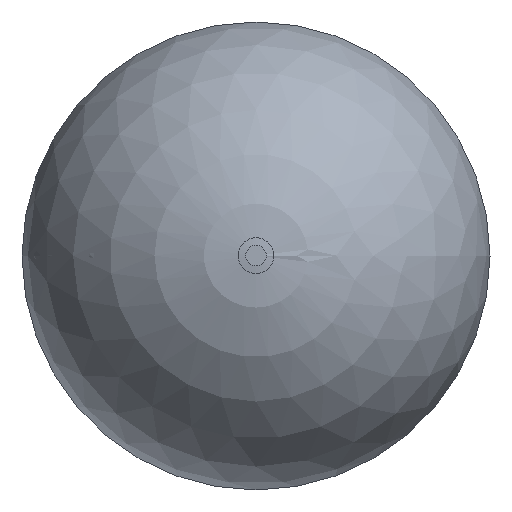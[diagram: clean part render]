
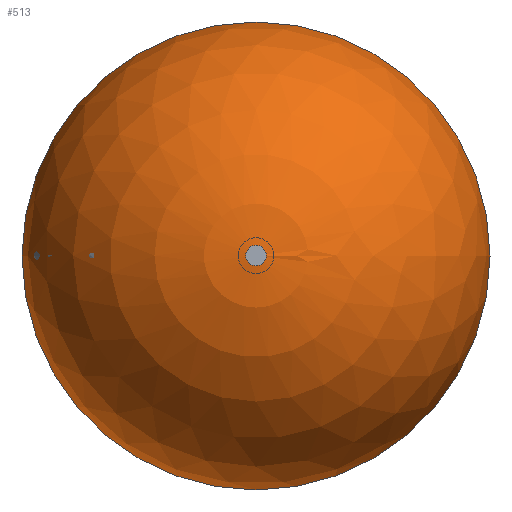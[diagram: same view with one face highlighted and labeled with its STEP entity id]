
A CAD part, top view. The second image highlights one B-rep face of the part: STEP entity #513.
In plain terms, the highlighted spherical face has radius 230 mm.
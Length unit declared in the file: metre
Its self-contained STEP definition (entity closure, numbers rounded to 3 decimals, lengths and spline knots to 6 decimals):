
#513 = ADVANCED_FACE( '', ( #557 ), #558, .T. );
#557 = FACE_OUTER_BOUND( '', #1034, .T. );
#558 = SPHERICAL_SURFACE( '', #1035, 0.23 );
#1034 = EDGE_LOOP( '', ( #1915 ) );
#1035 = AXIS2_PLACEMENT_3D( '', #1916, #1917, #1918 );
#1915 = ORIENTED_EDGE( '', *, *, #2058, .F. );
#1916 = CARTESIAN_POINT( '', ( 0., 0., 1.39 ) );
#1917 = DIRECTION( '', ( 0., 0., -1. ) );
#1918 = DIRECTION( '', ( 1., 0., 0. ) );
#2058 = EDGE_CURVE( '', #2098, #2098, #2099, .T. );
#2098 = VERTEX_POINT( '', #2362 );
#2099 = CIRCLE( '', #2363, 0.23 );
#2362 = CARTESIAN_POINT( '', ( -0.23, 0., 1.39 ) );
#2363 = AXIS2_PLACEMENT_3D( '', #2822, #2823, #2824 );
#2822 = CARTESIAN_POINT( '', ( 0., 0., 1.39 ) );
#2823 = DIRECTION( '', ( 0., 0., -1. ) );
#2824 = DIRECTION( '', ( -1., 0., 0. ) );
